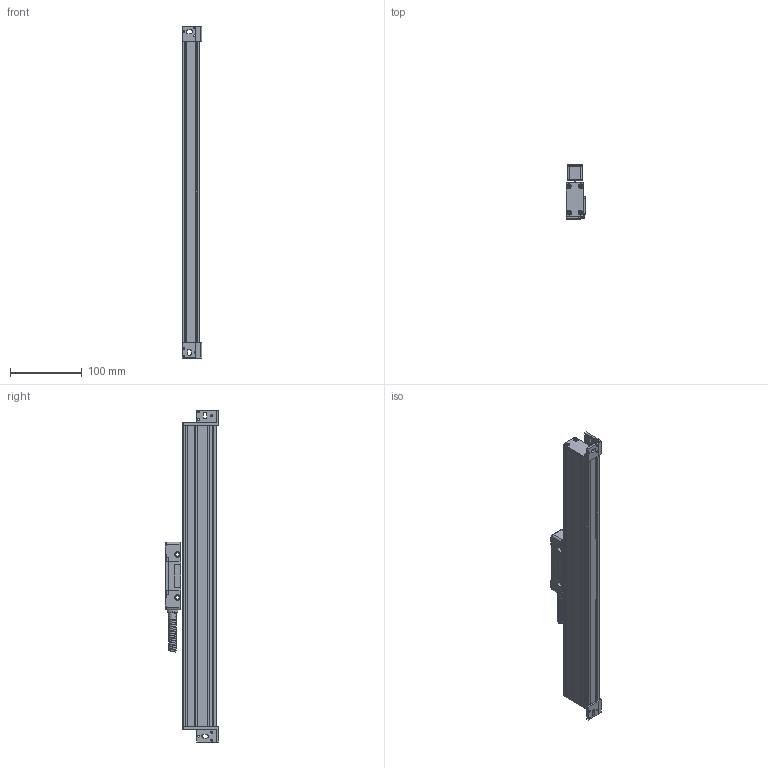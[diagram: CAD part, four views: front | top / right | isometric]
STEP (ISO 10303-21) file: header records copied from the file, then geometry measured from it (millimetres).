
FILE_DESCRIPTION (( 'STEP AP214' ), '1' );
FILE_NAME ('MLC310x0300.STEP', '2021-05-08T11:47:49', ( '' ), ( '' ), 'SwSTEP 2.0', 'SolidWorks 2014', '' );
FILE_SCHEMA (( 'AUTOMOTIVE_DESIGN' ));
Length unit declared in the file: millimetre
Products named in the file (1): MLC310x0300
Bounding box: 27 x 75.15 x 464 mm (x, y, z)
Surface area: 94194.2 mm2 (no closed solid volume)
Topology: 0 solids, 23 shells, 448 faces, 1681 edges, 1241 vertices
Faces by surface type: plane 178, cylinder 145, cone 83, bspline 32, torus 10
Entity records: 33573 total; most frequent: CARTESIAN_POINT 14581, DIRECTION 2871, ORIENTED_EDGE 2746, EDGE_CURVE 1673, VERTEX_POINT 1241, AXIS2_PLACEMENT_3D 999, LINE 873, VECTOR 873
